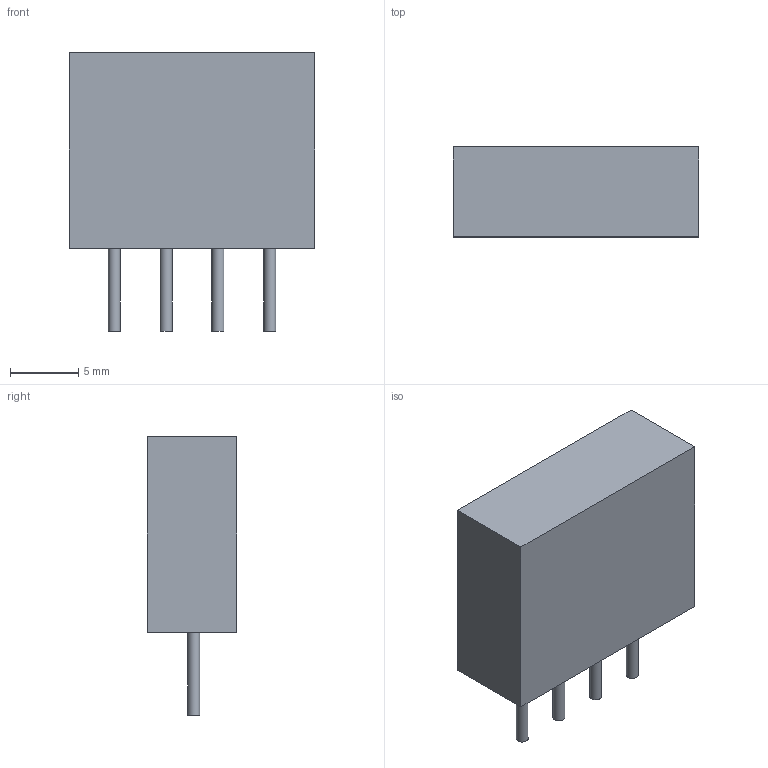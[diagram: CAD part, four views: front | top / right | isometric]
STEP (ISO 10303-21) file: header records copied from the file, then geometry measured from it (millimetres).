
FILE_DESCRIPTION(('STEP AP214'),'1');
FILE_NAME('RS201L-RS207L_RTN','2023-05-15T08:23:36',(''),(''),'','','');
FILE_SCHEMA(('AUTOMOTIVE_DESIGN'));
Length unit declared in the file: millimetre
Products named in the file (1): product
Bounding box: 18.03 x 6.6 x 20.47 mm (x, y, z)
Volume: 1727.3 mm3; surface area: 1019.7 mm2
Topology: 5 solids, 5 shells, 18 faces, 24 edges, 16 vertices
Faces by surface type: plane 14, cylinder 4
Full cylindrical faces by diameter (mm): 0.889 x4
Entity records: 547 total; most frequent: DIRECTION 74, CARTESIAN_POINT 47, ORIENTED_EDGE 40, AXIS2_PLACEMENT_3D 31, EDGE_LOOP 22, EDGE_CURVE 20, PRESENTATION_STYLE_ASSIGNMENT 18, SURFACE_STYLE_USAGE 18
